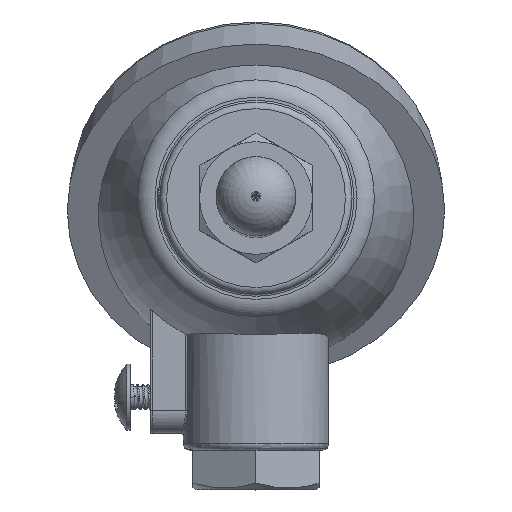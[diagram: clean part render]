
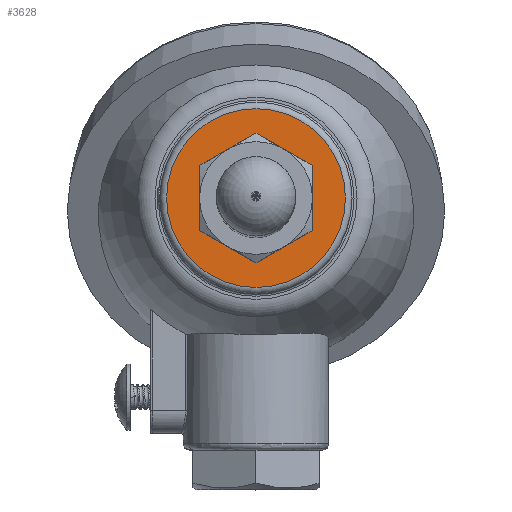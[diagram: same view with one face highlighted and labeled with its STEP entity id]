
A CAD part, top view. The second image highlights one B-rep face of the part: STEP entity #3628.
In plain terms, the highlighted planar face has unit normal (0, 0, 1).
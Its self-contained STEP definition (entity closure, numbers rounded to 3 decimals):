
#4 = VECTOR ( 'NONE', #3272, 1000. ) ;
#91 = LINE ( 'NONE', #3045, #5805 ) ;
#180 = CARTESIAN_POINT ( 'NONE',  ( 0., 0., -5. ) ) ;
#227 = CARTESIAN_POINT ( 'NONE',  ( 8.487, -4.9, -5. ) ) ;
#282 = VERTEX_POINT ( 'NONE', #3793 ) ;
#367 = EDGE_CURVE ( 'NONE', #5623, #5378, #7504, .T. ) ;
#476 = CARTESIAN_POINT ( 'NONE',  ( -8.487, 4.9, -5. ) ) ;
#593 = CARTESIAN_POINT ( 'NONE',  ( 0., 9.8, -5. ) ) ;
#631 = CARTESIAN_POINT ( 'NONE',  ( 8.487, -4.9, -5. ) ) ;
#708 = LINE ( 'NONE', #3142, #1914 ) ;
#879 = ORIENTED_EDGE ( 'NONE', *, *, #1676, .F. ) ;
#916 = VERTEX_POINT ( 'NONE', #3488 ) ;
#980 = VERTEX_POINT ( 'NONE', #5316 ) ;
#1250 = EDGE_CURVE ( 'NONE', #7329, #7329, #1828, .T. ) ;
#1301 = FACE_OUTER_BOUND ( 'NONE', #1976, .T. ) ;
#1676 = EDGE_CURVE ( 'NONE', #282, #4438, #1911, .T. ) ;
#1745 = DIRECTION ( 'NONE',  ( -0.866, 0.5, 0. ) ) ;
#1828 = CIRCLE ( 'NONE', #7563, 13.5 ) ;
#1853 = CARTESIAN_POINT ( 'NONE',  ( 0., 0., -5. ) ) ;
#1911 = LINE ( 'NONE', #6141, #3292 ) ;
#1914 = VECTOR ( 'NONE', #1745, 1000. ) ;
#1976 = EDGE_LOOP ( 'NONE', ( #7314 ) ) ;
#2071 = LINE ( 'NONE', #2596, #4 ) ;
#2596 = CARTESIAN_POINT ( 'NONE',  ( -8.487, -4.9, -5. ) ) ;
#3045 = CARTESIAN_POINT ( 'NONE',  ( -8.487, 4.9, -5. ) ) ;
#3104 = LINE ( 'NONE', #631, #7688 ) ;
#3142 = CARTESIAN_POINT ( 'NONE',  ( 8.487, 4.9, -5. ) ) ;
#3272 = DIRECTION ( 'NONE',  ( 0.866, -0.5, 0. ) ) ;
#3279 = EDGE_CURVE ( 'NONE', #4438, #980, #3104, .T. ) ;
#3292 = VECTOR ( 'NONE', #4858, 1000. ) ;
#3488 = CARTESIAN_POINT ( 'NONE',  ( -8.487, -4.9, -5. ) ) ;
#3603 = DIRECTION ( 'NONE',  ( 0., -1., 0. ) ) ;
#3628 = ADVANCED_FACE ( 'NONE', ( #6761, #1301 ), #7327, .F. ) ;
#3691 = DIRECTION ( 'NONE',  ( 0., 0., -1. ) ) ;
#3793 = CARTESIAN_POINT ( 'NONE',  ( 0., -9.8, -5. ) ) ;
#3889 = DIRECTION ( 'NONE',  ( 0., 0., 1. ) ) ;
#3907 = AXIS2_PLACEMENT_3D ( 'NONE', #1853, #3691, #7285 ) ;
#4070 = EDGE_CURVE ( 'NONE', #5378, #916, #91, .T. ) ;
#4438 = VERTEX_POINT ( 'NONE', #227 ) ;
#4828 = ORIENTED_EDGE ( 'NONE', *, *, #4070, .F. ) ;
#4858 = DIRECTION ( 'NONE',  ( 0.866, 0.5, 0. ) ) ;
#5277 = EDGE_CURVE ( 'NONE', #916, #282, #2071, .T. ) ;
#5316 = CARTESIAN_POINT ( 'NONE',  ( 8.487, 4.9, -5. ) ) ;
#5378 = VERTEX_POINT ( 'NONE', #476 ) ;
#5394 = ORIENTED_EDGE ( 'NONE', *, *, #367, .F. ) ;
#5623 = VERTEX_POINT ( 'NONE', #593 ) ;
#5729 = EDGE_CURVE ( 'NONE', #980, #5623, #708, .T. ) ;
#5805 = VECTOR ( 'NONE', #3603, 1000. ) ;
#6060 = VECTOR ( 'NONE', #6783, 1000. ) ;
#6068 = ORIENTED_EDGE ( 'NONE', *, *, #5277, .F. ) ;
#6098 = ORIENTED_EDGE ( 'NONE', *, *, #3279, .F. ) ;
#6141 = CARTESIAN_POINT ( 'NONE',  ( 0., -9.8, -5. ) ) ;
#6217 = DIRECTION ( 'NONE',  ( 0., 1., 0. ) ) ;
#6246 = DIRECTION ( 'NONE',  ( 0., 1., 0. ) ) ;
#6260 = EDGE_LOOP ( 'NONE', ( #879, #6068, #4828, #5394, #6813, #6098 ) ) ;
#6679 = CARTESIAN_POINT ( 'NONE',  ( 0., 13.5, -5. ) ) ;
#6761 = FACE_BOUND ( 'NONE', #6260, .T. ) ;
#6783 = DIRECTION ( 'NONE',  ( -0.866, -0.5, 0. ) ) ;
#6813 = ORIENTED_EDGE ( 'NONE', *, *, #5729, .F. ) ;
#6864 = CARTESIAN_POINT ( 'NONE',  ( 0., 9.8, -5. ) ) ;
#7285 = DIRECTION ( 'NONE',  ( 0., 1., 0. ) ) ;
#7314 = ORIENTED_EDGE ( 'NONE', *, *, #1250, .T. ) ;
#7327 = PLANE ( 'NONE',  #3907 ) ;
#7329 = VERTEX_POINT ( 'NONE', #6679 ) ;
#7504 = LINE ( 'NONE', #6864, #6060 ) ;
#7563 = AXIS2_PLACEMENT_3D ( 'NONE', #180, #3889, #6246 ) ;
#7688 = VECTOR ( 'NONE', #6217, 1000. ) ;
